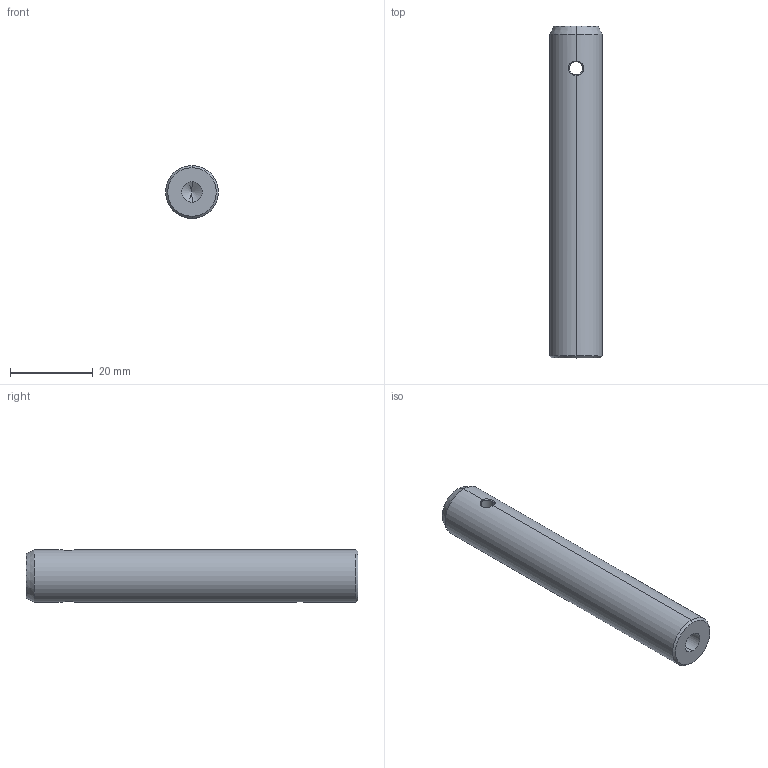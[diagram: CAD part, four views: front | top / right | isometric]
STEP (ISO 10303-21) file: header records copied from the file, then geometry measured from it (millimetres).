
FILE_DESCRIPTION (( 'STEP AP214' ), '1' );
FILE_NAME ('淩諾盓裝4in.STEP', '2026-08-06T06:08:44', ( '' ), ( '' ), 'SwSTEP 2.0', 'SolidWorks 2024', '' );
FILE_SCHEMA (( 'AUTOMOTIVE_DESIGN' ));
Length unit declared in the file: millimetre
Products named in the file (1): 真空支杆4in
Bounding box: 12.7 x 80 x 12.7 mm (x, y, z)
Volume: 9596.9 mm3; surface area: 3837.4 mm2
Topology: 1 solids, 1 shells, 26 faces, 74 edges, 45 vertices
Faces by surface type: cylinder 10, cone 8, bspline 6, plane 2
Entity records: 4706 total; most frequent: CARTESIAN_POINT 4087, ORIENTED_EDGE 144, DIRECTION 93, EDGE_CURVE 72, VERTEX_POINT 45, B_SPLINE_CURVE_WITH_KNOTS 37, AXIS2_PLACEMENT_3D 37, EDGE_LOOP 29
